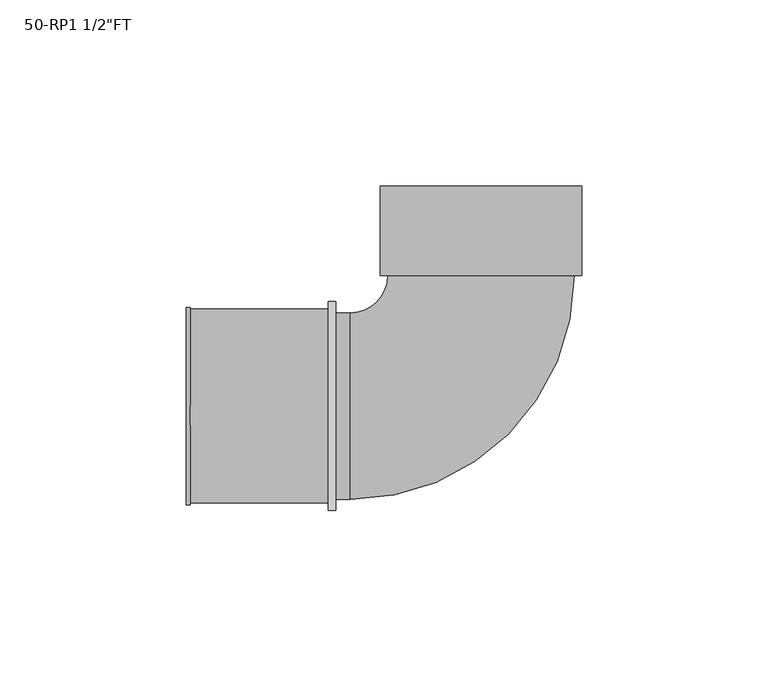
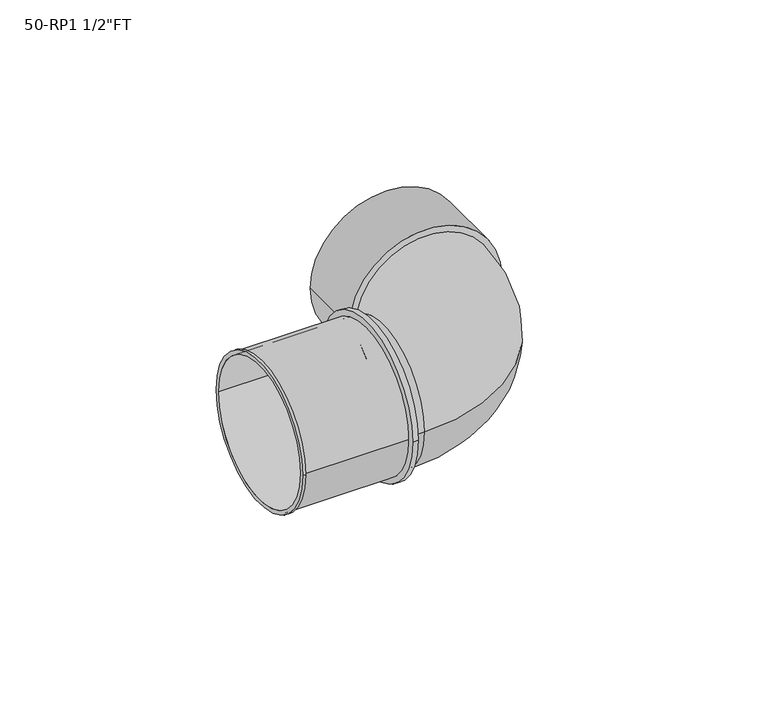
"""IFC4 building model written with IfcOpenShell, lengths in millimetres: pipe fitting geometry."""

from ifc_helpers import new_model, si_unit, point, frame, origin, origin_2d, place, context, project, spatial, polyline, circle_curve, ellipse_curve, trimmed, segment, composite_curve, outline, extrude, source, transform, mapped, element, save
from ifc_brep_helpers import plane_surface, cylinder_surface, revolved_surface, advanced_brep


def pipe_fitting_0f7801de(model_context):
    return source(origin(), model_context, "Body", "SolidModel", [
        advanced_brep(
        [(-27.0, 59.0, 0.0), (27.0, 59.0, 0.0), (-22.0, 59.0, 0.0), (22.0, 59.0, 0.0), (-27.0, 35.0, 0.0), (27.0, 35.0, 0.0), (-22.0, 36.0, 0.0), (22.0, 36.0, 0.0)],
        [
            (0, 1, circle_curve(frame((0.0, 59.0, 0.0), z_axis=(0.0, 1.0, 0.0), x_axis=(1.0, 0.0, 0.0)), 27.0)),
            (1, 0, circle_curve(frame((0.0, 59.0, 0.0), z_axis=(0.0, 1.0, 0.0), x_axis=(1.0, 0.0, 0.0)), 27.0)),
            (2, 3, circle_curve(frame((0.0, 59.0, 0.0), z_axis=(0.0, -1.0, 0.0), x_axis=(1.0, 0.0, 0.0)), 22.0)),
            (3, 2, circle_curve(frame((0.0, 59.0, 0.0), z_axis=(0.0, -1.0, 0.0), x_axis=(1.0, 0.0, 0.0)), 22.0)),
            (4, 5, circle_curve(frame((0.0, 35.0, 0.0), z_axis=(0.0, -1.0, 0.0), x_axis=(1.0, 0.0, 0.0)), 27.0)),
            (5, 4, circle_curve(frame((0.0, 35.0, 0.0), z_axis=(0.0, -1.0, 0.0), x_axis=(1.0, 0.0, 0.0)), 27.0)),
            (1, 5),
            (4, 0),
            (2, 6),
            (6, 7, circle_curve(frame((0.0, 36.0, 0.0), z_axis=(0.0, -1.0, 0.0), x_axis=(1.0, 0.0, 0.0)), 22.0)),
            (7, 3),
            (7, 6, circle_curve(frame((0.0, 36.0, 0.0), z_axis=(0.0, -1.0, 0.0), x_axis=(1.0, 0.0, 0.0)), 22.0)),
        ],
        [
            plane_surface(frame((0.0, 59.0, 0.0), z_axis=(0.0, 1.0, 0.0), x_axis=(0.0, 0.0, 1.0))),
            plane_surface(frame((0.0, 35.0, 0.0), z_axis=(0.0, -1.0, 0.0), x_axis=(0.0, 0.0, 1.0))),
            cylinder_surface(frame((0.0, 59.0, 0.0), z_axis=(0.0, 1.0, 0.0), x_axis=(1.0, 0.0, 0.0)), 27.0),
            revolved_surface(polyline([(22.0, 36.0, 0.0), (22.0, 59.0, 0.0)]), (0.0, 59.0, 0.0), (0.0, -1.0, 0.0)),
            plane_surface(frame((0.0, 36.0, 0.0), z_axis=(0.0, 1.0, 0.0), x_axis=(0.0, 0.0, 1.0))),
        ],
        [
            (0, [[1, 2], [3, 4]]),
            (1, [[5, 6]]),
            (2, [[-2, 7, -5, 8]]),
            (2, [[-1, -8, -6, -7]]),
            (3, [[-3, 9, 10, 11]]),
            (3, [[-4, -11, 12, -9]]),
            (4, [[-10, -12]]),
        ],
    ),
        advanced_brep(
        [(25.0, 35.0, 0.0), (-25.0, 35.0, 0.0), (-35.0, 25.0, 0.0), (-35.0, -25.0, 0.0), (-39.0, -25.0, 0.0), (-39.0, 25.0, 0.0)],
        [
            (0, 1, circle_curve(frame((0.0, 35.0, 0.0), z_axis=(0.0, 1.0, 0.0), x_axis=(-1.0, 0.0, 0.0)), 25.0)),
            (1, 0, circle_curve(frame((0.0, 35.0, 0.0), z_axis=(0.0, 1.0, 0.0), x_axis=(-1.0, 0.0, 0.0)), 25.0)),
            (1, 2, circle_curve(frame((-35.0, 35.0, 0.0), z_axis=(0.0, 0.0, -1.0), x_axis=(0.0, -1.0, 0.0)), 10.0)),
            (2, 3, circle_curve(frame((-35.0, 0.0, 0.0), z_axis=(1.0, 0.0, 0.0), x_axis=(0.0, 1.0, 0.0)), 25.0)),
            (3, 0, circle_curve(frame((-35.0, 35.0, 0.0), z_axis=(0.0, 0.0, 1.0), x_axis=(0.0, -1.0, 0.0)), 60.0)),
            (3, 2, circle_curve(frame((-35.0, 0.0, 0.0), z_axis=(1.0, 0.0, 0.0), x_axis=(0.0, 1.0, 0.0)), 25.0)),
            (4, 5, circle_curve(frame((-39.0, 0.0, 0.0), z_axis=(-1.0, 0.0, 0.0), x_axis=(0.0, 1.0, 0.0)), 25.0)),
            (5, 4, circle_curve(frame((-39.0, 0.0, 0.0), z_axis=(-1.0, 0.0, 0.0), x_axis=(0.0, 1.0, 0.0)), 25.0)),
            (4, 3),
            (2, 5),
        ],
        [
            plane_surface(frame((0.0, 35.0, 0.0), z_axis=(0.0, 1.0, 0.0), x_axis=(0.0, 0.0, 1.0))),
            revolved_surface(trimmed(ellipse_curve(frame((-35.0, 0.0, 0.0), z_axis=(-1.0, 0.0, 0.0), x_axis=(0.0, 1.0, 0.0)), 25.0, 25.0), [point((-35.0, -25.0, 0.0))], [point((-35.0, 25.0, 0.0))], True, "CARTESIAN"), (-35.0, 35.0, 0.0), (0.0, 0.0, 1.0)),
            revolved_surface(trimmed(ellipse_curve(frame((-35.0, 0.0, 0.0), z_axis=(-1.0, 0.0, 0.0), x_axis=(0.0, 1.0, 0.0)), 25.0, 25.0), [point((-35.0, 25.0, 0.0))], [point((-35.0, -25.0, 0.0))], True, "CARTESIAN"), (-35.0, 35.0, 0.0), (0.0, 0.0, 1.0)),
            plane_surface(frame((-39.0, 0.0, 0.0), z_axis=(-1.0, 0.0, 0.0), x_axis=(0.0, 0.0, 1.0))),
            cylinder_surface(frame((-39.0, 0.0, 0.0), z_axis=(-1.0, 0.0, 0.0), x_axis=(0.0, 1.0, 0.0)), 25.0),
        ],
        [
            (0, [[1, 2]]),
            (1, [[-2, 3, 4, 5]]),
            (2, [[-1, -5, 6, -3]]),
            (3, [[7, 8]]),
            (4, [[-7, 9, -4, 10]]),
            (4, [[-8, -10, -6, -9]]),
        ],
    ),
        extrude(outline(composite_curve([segment(trimmed(circle_curve(origin_2d(), 28.0), [point((-28.0, 0.0))], [point((28.0, 0.0))], False, "CARTESIAN"), True, "CONTINUOUS"), segment(trimmed(circle_curve(origin_2d(), 28.0), [point((28.0, 0.0))], [point((-28.0, 0.0))], False, "CARTESIAN"), True, "CONTINUOUS")], self_intersect=False), holes=[composite_curve([segment(trimmed(circle_curve(origin_2d(), 25.0), [point((-25.0, 0.0))], [point((25.0, 0.0))], True, "CARTESIAN"), True, "CONTINUOUS"), segment(trimmed(circle_curve(origin_2d(), 25.0), [point((25.0, 0.0))], [point((-25.0, 0.0))], True, "CARTESIAN"), True, "CONTINUOUS")], self_intersect=False)]), frame((-41.0, 0.0, 0.0), z_axis=(1.0, 0.0, 0.0), x_axis=(0.0, 1.0, 0.0)), (0.0, 0.0, 1.0), 2.0),
        advanced_brep(
        [(-79.0, -26.5, 0.0), (-79.0, 26.5, 0.0), (-79.0, -25.0, 0.0), (-79.0, 25.0, 0.0), (-41.0, -26.0, 0.0), (-41.0, 26.0, 0.0), (-41.0, -25.0, 0.0), (-41.0, 25.0, 0.0), (-78.0, 26.0, 0.0), (-78.0, -26.0, 0.0), (-78.0, -26.5, 0.0), (-78.0, 26.5, 0.0)],
        [
            (0, 1, circle_curve(frame((-79.0, 0.0, 0.0), z_axis=(-1.0, 0.0, 0.0), x_axis=(0.0, 1.0, 0.0)), 26.5)),
            (1, 0, circle_curve(frame((-79.0, 0.0, 0.0), z_axis=(-1.0, 0.0, 0.0), x_axis=(0.0, 1.0, 0.0)), 26.5)),
            (2, 3, circle_curve(frame((-79.0, 0.0, 0.0), z_axis=(1.0, 0.0, 0.0), x_axis=(0.0, 1.0, 0.0)), 25.0)),
            (3, 2, circle_curve(frame((-79.0, 0.0, 0.0), z_axis=(1.0, 0.0, 0.0), x_axis=(0.0, 1.0, 0.0)), 25.0)),
            (4, 5, circle_curve(frame((-41.0, 0.0, 0.0), z_axis=(1.0, 0.0, 0.0), x_axis=(0.0, 1.0, 0.0)), 26.0)),
            (5, 4, circle_curve(frame((-41.0, 0.0, 0.0), z_axis=(1.0, 0.0, 0.0), x_axis=(0.0, 1.0, 0.0)), 26.0)),
            (6, 7, circle_curve(frame((-41.0, 0.0, 0.0), z_axis=(-1.0, 0.0, 0.0), x_axis=(0.0, 1.0, 0.0)), 25.0)),
            (7, 6, circle_curve(frame((-41.0, 0.0, 0.0), z_axis=(-1.0, 0.0, 0.0), x_axis=(0.0, 1.0, 0.0)), 25.0)),
            (2, 6),
            (7, 3),
            (5, 8),
            (8, 9, circle_curve(frame((-78.0, 0.0, 0.0), z_axis=(1.0, 0.0, 0.0), x_axis=(0.0, 1.0, 0.0)), 26.0)),
            (9, 4),
            (9, 8, circle_curve(frame((-78.0, 0.0, 0.0), z_axis=(1.0, 0.0, 0.0), x_axis=(0.0, 1.0, 0.0)), 26.0)),
            (10, 11, circle_curve(frame((-78.0, 0.0, 0.0), z_axis=(1.0, 0.0, 0.0), x_axis=(0.0, 1.0, 0.0)), 26.5)),
            (11, 10, circle_curve(frame((-78.0, 0.0, 0.0), z_axis=(1.0, 0.0, 0.0), x_axis=(0.0, 1.0, 0.0)), 26.5)),
            (0, 10),
            (11, 1),
        ],
        [
            plane_surface(frame((-79.0, 0.0, 0.0), z_axis=(-1.0, 0.0, 0.0), x_axis=(0.0, 0.0, 1.0))),
            plane_surface(frame((-41.0, 0.0, 0.0), z_axis=(1.0, 0.0, 0.0), x_axis=(0.0, 0.0, 1.0))),
            revolved_surface(polyline([(-41.0, 25.0, 0.0), (-79.0, 25.0, 0.0)]), (-79.0, 0.0, 0.0), (1.0, 0.0, 0.0)),
            cylinder_surface(frame((-79.0, 0.0, 0.0), z_axis=(-1.0, 0.0, 0.0), x_axis=(0.0, 1.0, 0.0)), 26.0),
            plane_surface(frame((-78.0, 0.0, 0.0), z_axis=(1.0, 0.0, 0.0), x_axis=(0.0, 0.0, 1.0))),
            cylinder_surface(frame((-79.0, 0.0, 0.0), z_axis=(-1.0, 0.0, 0.0), x_axis=(0.0, 1.0, 0.0)), 26.5),
        ],
        [
            (0, [[1, 2], [3, 4]]),
            (1, [[5, 6], [7, 8]]),
            (2, [[-3, 9, -8, 10]]),
            (2, [[-4, -10, -7, -9]]),
            (3, [[-6, 11, 12, 13]]),
            (3, [[-5, -13, 14, -11]]),
            (4, [[15, 16], [-12, -14]]),
            (5, [[-1, 17, -16, 18]]),
            (5, [[-2, -18, -15, -17]]),
        ],
    ),
    ])


if __name__ == "__main__":
    model = new_model("IFC4")
    model_context = context("Model", 3, world=origin())
    ifc_project = project(units=[si_unit("LENGTHUNIT", "METRE", prefix="MILLI")], contexts=[model_context])
    site = spatial("IfcSite", under=ifc_project)
    building = spatial("IfcBuilding", under=site)
    placement = place(None, origin())
    pipe_fitting_shape = pipe_fitting_0f7801de(model_context)
    element("IfcPipeFitting", 1, ObjectType="SuperPipe_ElbowAdapterFT_MAX_RP : 50-RP1 1/2\"FT", at=placement, inside=building, context=model_context, shape_type="MappedRepresentation", body=[
        mapped(pipe_fitting_shape, transform((0.0, 0.0, 0.0), x_axis=(1.0, 0.0, 0.0), y_axis=(0.0, 1.0, 0.0), z_axis=(0.0, 0.0, 1.0))),
    ])
    save(model, "model.ifc")
